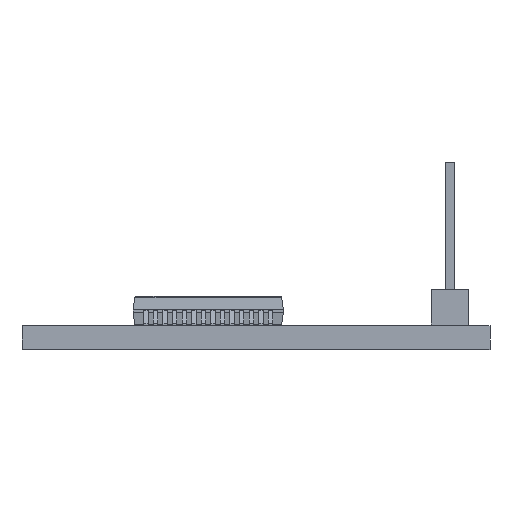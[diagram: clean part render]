
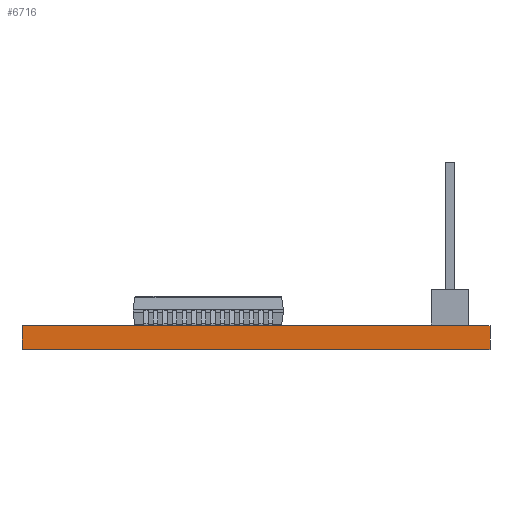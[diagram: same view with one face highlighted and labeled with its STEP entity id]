
A CAD part, top view. The second image highlights one B-rep face of the part: STEP entity #6716.
In plain terms, the highlighted planar face has unit normal (0, 0, 1).
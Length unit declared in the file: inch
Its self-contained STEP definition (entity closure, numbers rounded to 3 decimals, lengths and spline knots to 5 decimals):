
#153 = VERTEX_POINT ( 'NONE', #11371 ) ;
#586 = EDGE_CURVE ( 'NONE', #4975, #1486, #16021, .T. ) ;
#682 = EDGE_LOOP ( 'NONE', ( #20211, #19034, #8669, #19684 ) ) ;
#786 = CARTESIAN_POINT ( 'NONE',  ( -7.69502, -0.01266, 5.01828 ) ) ;
#868 = CARTESIAN_POINT ( 'NONE',  ( -8.32002, -0.07466, 5.01828 ) ) ;
#985 = DIRECTION ( 'NONE',  ( 0., 0., 1. ) ) ;
#1066 = LINE ( 'NONE', #9612, #17683 ) ;
#1486 = VERTEX_POINT ( 'NONE', #17530 ) ;
#1983 = LINE ( 'NONE', #5953, #3474 ) ;
#2036 = VECTOR ( 'NONE', #2444, 39.37008 ) ;
#2444 = DIRECTION ( 'NONE',  ( 0., -1., 0. ) ) ;
#2852 = DIRECTION ( 'NONE',  ( -1., 0., 0. ) ) ;
#2891 = PLANE ( 'NONE',  #11938 ) ;
#3474 = VECTOR ( 'NONE', #19576, 39.37008 ) ;
#4229 = DIRECTION ( 'NONE',  ( 1., 0., 0. ) ) ;
#4975 = VERTEX_POINT ( 'NONE', #5903 ) ;
#5903 = CARTESIAN_POINT ( 'NONE',  ( -7.69502, -0.01266, 5.01828 ) ) ;
#5953 = CARTESIAN_POINT ( 'NONE',  ( -8.94502, -0.01266, 5.01828 ) ) ;
#6242 = VECTOR ( 'NONE', #17681, 39.37008 ) ;
#6698 = EDGE_CURVE ( 'NONE', #1486, #12629, #14323, .T. ) ;
#6716 = ADVANCED_FACE ( 'NONE', ( #12984 ), #2891, .T. ) ;
#7505 = CARTESIAN_POINT ( 'NONE',  ( -8.94502, -0.07466, 5.01828 ) ) ;
#8669 = ORIENTED_EDGE ( 'NONE', *, *, #20542, .T. ) ;
#9612 = CARTESIAN_POINT ( 'NONE',  ( -8.32002, -0.01266, 5.01828 ) ) ;
#11371 = CARTESIAN_POINT ( 'NONE',  ( -8.94502, -0.01266, 5.01828 ) ) ;
#11938 = AXIS2_PLACEMENT_3D ( 'NONE', #16221, #985, #4229 ) ;
#12629 = VERTEX_POINT ( 'NONE', #7505 ) ;
#12984 = FACE_OUTER_BOUND ( 'NONE', #682, .T. ) ;
#14323 = LINE ( 'NONE', #868, #6242 ) ;
#16021 = LINE ( 'NONE', #786, #2036 ) ;
#16221 = CARTESIAN_POINT ( 'NONE',  ( -8.32002, -0.01266, 5.01828 ) ) ;
#17530 = CARTESIAN_POINT ( 'NONE',  ( -7.69502, -0.07466, 5.01828 ) ) ;
#17681 = DIRECTION ( 'NONE',  ( -1., 0., 0. ) ) ;
#17683 = VECTOR ( 'NONE', #2852, 39.37008 ) ;
#17847 = EDGE_CURVE ( 'NONE', #153, #12629, #1983, .T. ) ;
#19034 = ORIENTED_EDGE ( 'NONE', *, *, #586, .F. ) ;
#19576 = DIRECTION ( 'NONE',  ( 0., -1., 0. ) ) ;
#19684 = ORIENTED_EDGE ( 'NONE', *, *, #17847, .T. ) ;
#20211 = ORIENTED_EDGE ( 'NONE', *, *, #6698, .F. ) ;
#20542 = EDGE_CURVE ( 'NONE', #4975, #153, #1066, .T. ) ;
